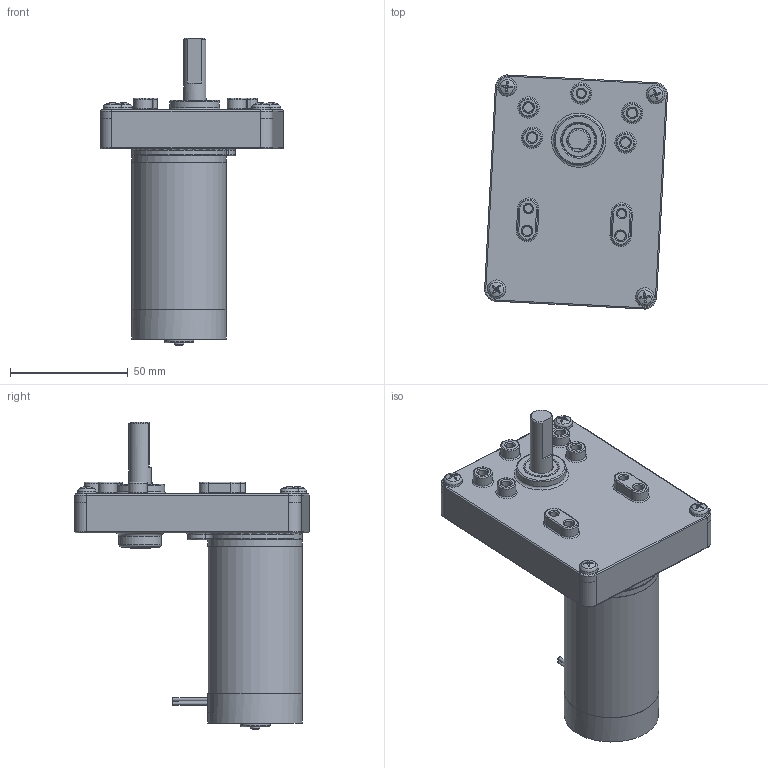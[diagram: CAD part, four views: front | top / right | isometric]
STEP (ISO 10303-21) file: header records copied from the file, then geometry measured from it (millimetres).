
FILE_DESCRIPTION(/* description */ (''),/* implementation_level */ '2;1');
FILE_NAME(/* name */ 'C:\Users\byjeong\Desktop\3D도면\SP46BL.stp',/* time_stamp */ '2015-03-31T15:28:30+09:00',/* author */ ('byjeong'),/* organization */ (''),/* preprocessor_version */ 'ST-DEVELOPER v15.6',/* originating_system */ 'Autodesk Inventor 2015',/* authorisation */ '');
FILE_SCHEMA (('AUTOMOTIVE_DESIGN { 1 0 10303 214 3 1 1 }'));
Length unit declared in the file: millimetre
Products named in the file (10): SQ BOX ASSY; RM4TYPE_FRONT_HOUSING_; RM4TYPE_PIPE_HOUSING_pi40XL62.4; RM46TYPE_SHAFT; AS 1427 Z - 미터 M3.5 x 5; RM4TYPE_BRUSH_BRAKET_LEAD; RM4TYPE_REAR_HOUSING; REAR_HOUSING__ASS'Y_LEAD; RM46ㅁBL; 조립품23
Bounding box: 77.42 x 99.18 x 130.37 mm (x, y, z)
Volume: 151913 mm3; surface area: 50740.4 mm2
Topology: 14 solids, 14 shells, 464 faces, 1064 edges, 664 vertices
Faces by surface type: plane 152, cone 119, cylinder 108, torus 78, sphere 4, bspline 3
Full cylindrical faces by diameter (mm): 1.6 x2, 2.7 x4, 2.8 x4, 3.132 x2, 3.3 x4, 3.4 x3, 3.5 x3, 3.571 x3, 3.7 x2, 3.9 x1, 3.969 x1, 4 x10, 4.4 x3, 5 x1, 6.1 x2, 6.5 x1, 6.65 x1, 8 x5, 9.5 x3, 12.7 x3, 13.5 x2, 14.3 x1, 18 x1, 21 x1, 36.5 x1, 40 x3
Entity records: 11819 total; most frequent: CARTESIAN_POINT 2825, DIRECTION 1953, ORIENTED_EDGE 1582, AXIS2_PLACEMENT_3D 889, EDGE_CURVE 790, EDGE_LOOP 635, VERTEX_POINT 570, CIRCLE 441
